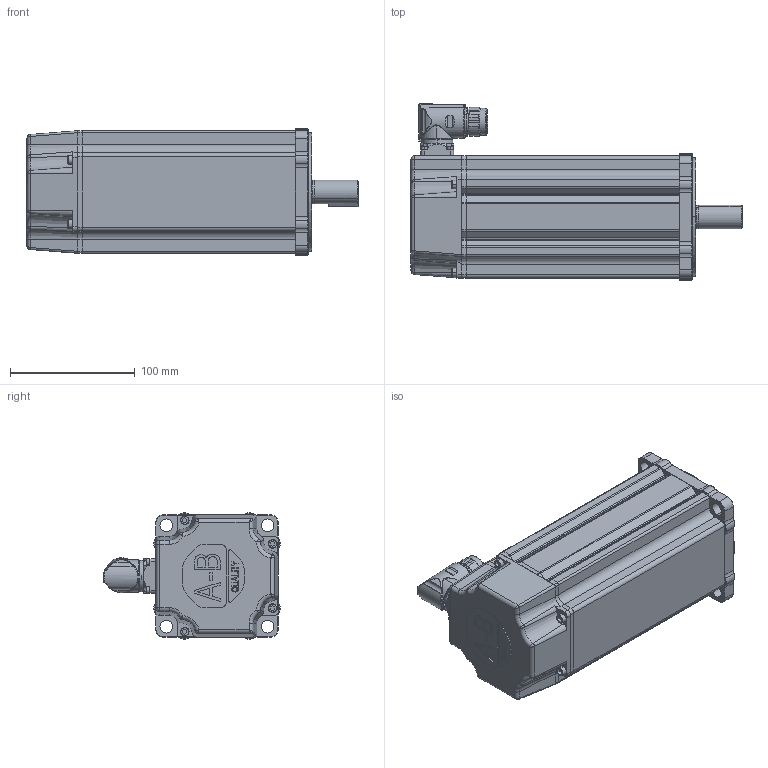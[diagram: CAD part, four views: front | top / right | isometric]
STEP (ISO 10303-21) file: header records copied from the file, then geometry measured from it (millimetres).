
FILE_DESCRIPTION (( 'STEP AP214' ), '1' );
FILE_NAME ('Rockwell Automation-$PARTNUMBER.STEP', '2014-07-25T13:55:52', ( 'Windows User' ), ( '' ), 'SwSTEP 2.0', 'SolidWorks 2014', '' );
FILE_SCHEMA (( 'AUTOMOTIVE_DESIGN' ));
Length unit declared in the file: inch
Products named in the file (4): Rockwell Automation-$PARTNUMBER_Rockwell Automation-VPF-x1153x-xJx4xx_Connector; Rockwell Automation-$PARTNUMBER_Rockwell Automation-VPF-x1153x-xJx4xx_VPF-115-Shaft_1153-SHAFT-KEYED-BRAKE; Rockwell Automation-$PARTNUMBER_Rockwell Automation-VPF-x1153x-xJx4xx_VPF-115-Body_1153-Brake; Rockwell Automation-$PARTNUMBER
Assembly tree (3 placements, depth 2):
  Rockwell Automation-$PARTNUMBER
    Rockwell Automation-$PARTNUMBER_Rockwell Automation-VPF-x1153x-xJx4xx_VPF-115-Body_1153-Brake
    Rockwell Automation-$PARTNUMBER_Rockwell Automation-VPF-x1153x-xJx4xx_VPF-115-Shaft_1153-SHAFT-KEYED-BRAKE
    Rockwell Automation-$PARTNUMBER_Rockwell Automation-VPF-x1153x-xJx4xx_Connector
Bounding box: 266.32 x 141.58 x 101.55 mm (x, y, z)
Volume: 955953.4 mm3; surface area: 228570.9 mm2
Topology: 8 solids, 8 shells, 1129 faces, 2763 edges, 1736 vertices
Faces by surface type: plane 487, cylinder 363, cone 127, bspline 92, torus 40, sphere 20
Entity records: 56228 total; most frequent: CARTESIAN_POINT 14853, DIRECTION 5534, ORIENTED_EDGE 5482, EDGE_CURVE 2741, AXIS2_PLACEMENT_3D 2002, VERTEX_POINT 1736, VECTOR 1530, LINE 1530
